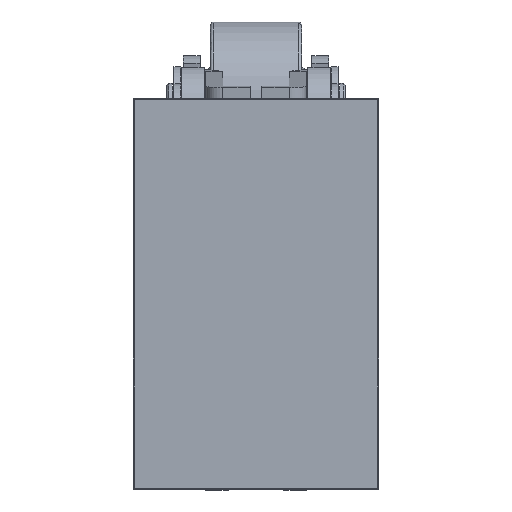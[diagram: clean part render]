
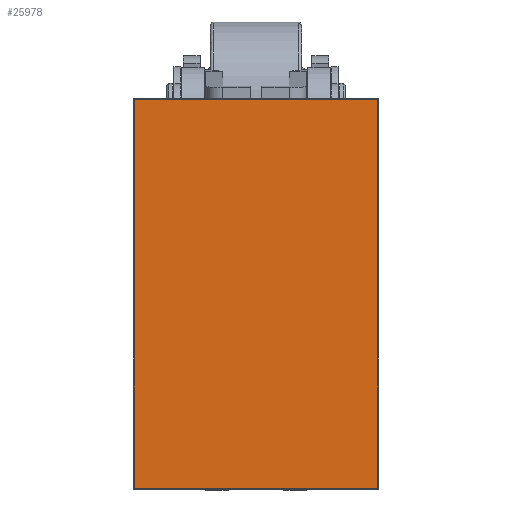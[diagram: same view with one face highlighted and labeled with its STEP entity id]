
A CAD part, front view. The second image highlights one B-rep face of the part: STEP entity #25978.
In plain terms, the highlighted planar face has unit normal (0, -1, 0) as drawn and (0, 0, 1) by its records, which use the part's own axes.
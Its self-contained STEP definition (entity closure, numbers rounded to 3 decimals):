
#2132 = CARTESIAN_POINT ( 'NONE',  ( -10.9, 17.4, 7.5 ) ) ;
#2831 = LINE ( 'NONE', #4976, #4505 ) ;
#3771 = VERTEX_POINT ( 'NONE', #14297 ) ;
#4178 = AXIS2_PLACEMENT_3D ( 'NONE', #24439, #6953, #26449 ) ;
#4505 = VECTOR ( 'NONE', #18104, 1000. ) ;
#4976 = CARTESIAN_POINT ( 'NONE',  ( 10.9, -17.4, 7.5 ) ) ;
#5238 = EDGE_CURVE ( 'NONE', #6354, #13902, #26768, .T. ) ;
#5454 = CARTESIAN_POINT ( 'NONE',  ( 10.9, 17.4, 7.5 ) ) ;
#5565 = CARTESIAN_POINT ( 'NONE',  ( 10.9, -17.4, 7.5 ) ) ;
#5708 = EDGE_CURVE ( 'NONE', #13902, #3771, #11072, .T. ) ;
#6354 = VERTEX_POINT ( 'NONE', #10430 ) ;
#6953 = DIRECTION ( 'NONE',  ( 0., 0., 1. ) ) ;
#8623 = DIRECTION ( 'NONE',  ( 1., 0., 0. ) ) ;
#9447 = VECTOR ( 'NONE', #8623, 1000. ) ;
#10430 = CARTESIAN_POINT ( 'NONE',  ( 10.9, 17.4, 7.5 ) ) ;
#10872 = DIRECTION ( 'NONE',  ( 0., -1., 0. ) ) ;
#11072 = LINE ( 'NONE', #2132, #28083 ) ;
#11100 = VECTOR ( 'NONE', #27164, 1000. ) ;
#11708 = ORIENTED_EDGE ( 'NONE', *, *, #26729, .T. ) ;
#11981 = EDGE_CURVE ( 'NONE', #3771, #25117, #27852, .T. ) ;
#13396 = FACE_OUTER_BOUND ( 'NONE', #18890, .T. ) ;
#13592 = ORIENTED_EDGE ( 'NONE', *, *, #11981, .T. ) ;
#13902 = VERTEX_POINT ( 'NONE', #28148 ) ;
#14297 = CARTESIAN_POINT ( 'NONE',  ( -10.9, -17.4, 7.5 ) ) ;
#18104 = DIRECTION ( 'NONE',  ( 0., 1., 0. ) ) ;
#18890 = EDGE_LOOP ( 'NONE', ( #11708, #21402, #25641, #13592 ) ) ;
#21402 = ORIENTED_EDGE ( 'NONE', *, *, #5238, .T. ) ;
#21945 = PLANE ( 'NONE',  #4178 ) ;
#24439 = CARTESIAN_POINT ( 'NONE',  ( 0., 0., 7.5 ) ) ;
#25117 = VERTEX_POINT ( 'NONE', #5565 ) ;
#25641 = ORIENTED_EDGE ( 'NONE', *, *, #5708, .T. ) ;
#25978 = ADVANCED_FACE ( 'NONE', ( #13396 ), #21945, .T. ) ;
#26100 = CARTESIAN_POINT ( 'NONE',  ( -10.9, -17.4, 7.5 ) ) ;
#26449 = DIRECTION ( 'NONE',  ( 1., 0., 0. ) ) ;
#26729 = EDGE_CURVE ( 'NONE', #25117, #6354, #2831, .T. ) ;
#26768 = LINE ( 'NONE', #5454, #11100 ) ;
#27164 = DIRECTION ( 'NONE',  ( -1., 0., 0. ) ) ;
#27852 = LINE ( 'NONE', #26100, #9447 ) ;
#28083 = VECTOR ( 'NONE', #10872, 1000. ) ;
#28148 = CARTESIAN_POINT ( 'NONE',  ( -10.9, 17.4, 7.5 ) ) ;
